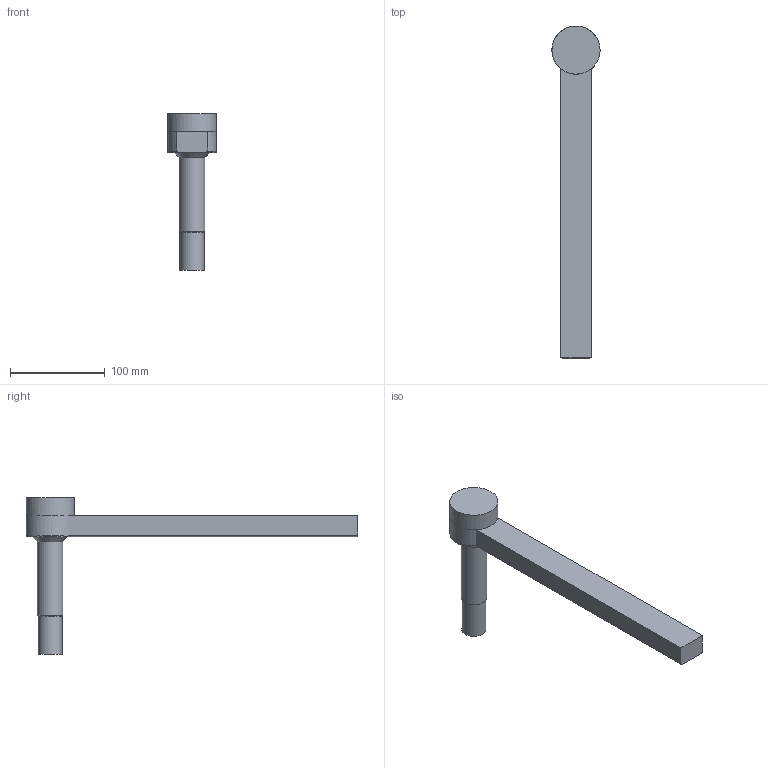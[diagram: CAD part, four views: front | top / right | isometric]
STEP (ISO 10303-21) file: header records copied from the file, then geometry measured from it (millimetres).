
FILE_DESCRIPTION(/* description */ (''),/* implementation_level */ '2;1');
FILE_NAME(/* name */ 'B0851TRUPas.stp',/* time_stamp */ '2019-10-03T10:32:39-04:00',/* author */ (''),/* organization */ (''),/* preprocessor_version */ 'ST-DEVELOPER v16',/* originating_system */ 'SIEMENS PLM Software NX 11.0',/* authorisation */ '');
FILE_SCHEMA (('AUTOMOTIVE_DESIGN { 1 0 10303 214 3 1 1 1 }'));
Length unit declared in the file: inch
Products named in the file (3): B0851TRUPd; B08XX_SubSolid; B0851TRUPas
Assembly tree (2 placements, depth 2):
  B0851TRUPas
    B08XX_SubSolid
    B0851TRUPd
Bounding box: 50.91 x 350.87 x 165.89 mm (x, y, z)
Volume: 464977.5 mm3; surface area: 74099.1 mm2
Topology: 2 solids, 3 shells, 34 faces, 72 edges, 45 vertices
Faces by surface type: plane 13, cylinder 10, cone 6, torus 3, sphere 1, revolution 1
Full cylindrical faces by diameter (mm): 8.731 x2, 25.4 x2, 26.987 x1, 50.927 x1
Entity records: 874 total; most frequent: CARTESIAN_POINT 167, DIRECTION 142, ORIENTED_EDGE 96, AXIS2_PLACEMENT_3D 62, EDGE_LOOP 54, EDGE_CURVE 48, FACE_BOUND 45, VERTEX_POINT 40
